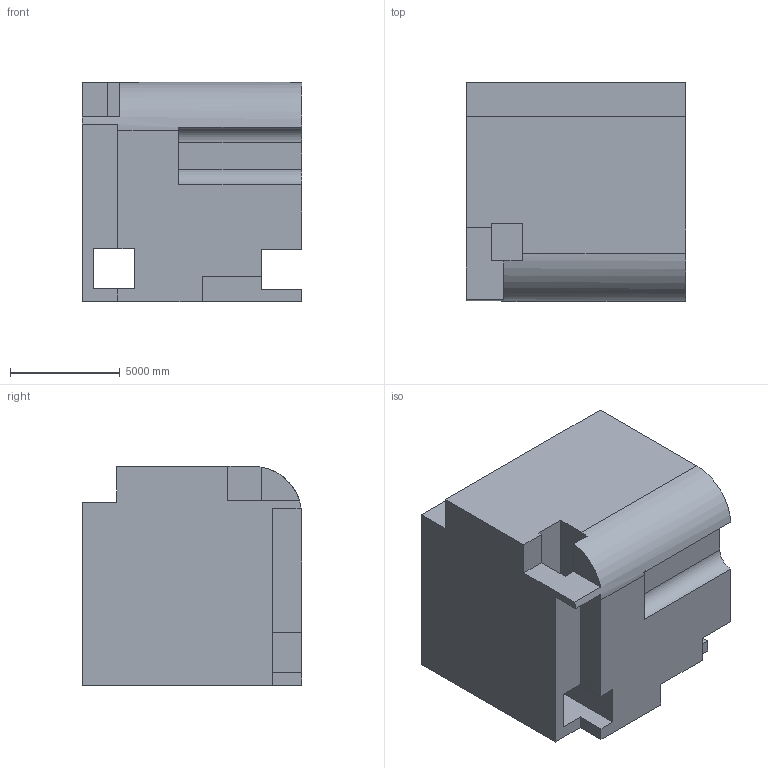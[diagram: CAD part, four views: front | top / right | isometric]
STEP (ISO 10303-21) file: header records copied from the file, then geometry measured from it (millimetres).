
FILE_DESCRIPTION (( 'STEP AP203' ), '1' );
FILE_NAME ('1881.STEP', '2022-08-25T16:19:53', ( 'user' ), ( '' ), 'SwSTEP 2.0', 'SolidWorks 2021', '' );
FILE_SCHEMA (( 'CONFIG_CONTROL_DESIGN' ));
Length unit declared in the file: centimetre
Products named in the file (1): 1881
Bounding box: 10000 x 10000 x 10000 mm (x, y, z)
Volume: 851712074952.2 mm3; surface area: 688588017.8 mm2
Topology: 1 solids, 1 shells, 36 faces, 105 edges, 70 vertices
Faces by surface type: plane 33, cylinder 3
Entity records: 1260 total; most frequent: CARTESIAN_POINT 212, ORIENTED_EDGE 210, DIRECTION 189, EDGE_CURVE 105, LINE 95, VECTOR 95, VERTEX_POINT 70, AXIS2_PLACEMENT_3D 47
